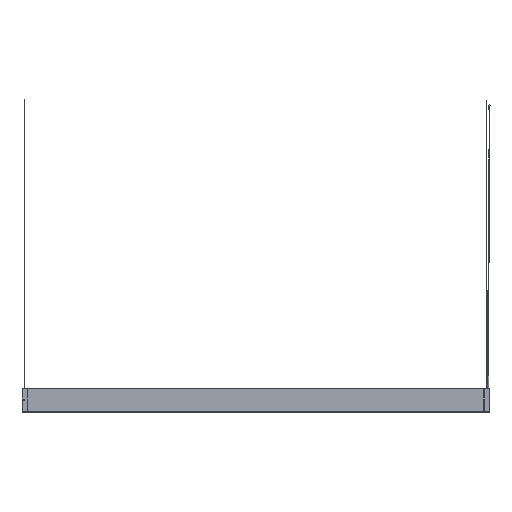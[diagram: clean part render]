
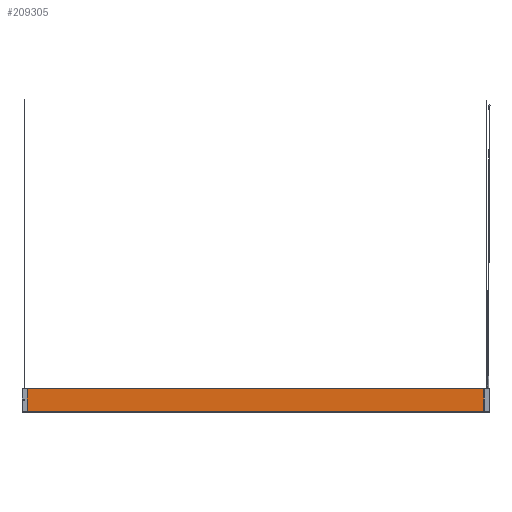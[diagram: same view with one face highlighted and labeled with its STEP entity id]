
A CAD part, top view. The second image highlights one B-rep face of the part: STEP entity #209305.
In plain terms, the highlighted planar face has unit normal (0, 0, 1) as drawn and (-1, 0, 0) by its records, which use the part's own axes.
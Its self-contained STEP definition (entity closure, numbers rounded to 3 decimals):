
#877 = ORIENTED_EDGE ( 'NONE', *, *, #166937, .T. ) ;
#2821 = VERTEX_POINT ( 'NONE', #88432 ) ;
#8650 = EDGE_CURVE ( 'NONE', #77932, #171551, #68294, .T. ) ;
#14858 = CARTESIAN_POINT ( 'NONE',  ( 0., 855., 43. ) ) ;
#19481 = LINE ( 'NONE', #193314, #65142 ) ;
#20387 = CARTESIAN_POINT ( 'NONE',  ( 0., -855., 43. ) ) ;
#21422 = PLANE ( 'NONE',  #87456 ) ;
#25175 = ORIENTED_EDGE ( 'NONE', *, *, #160282, .F. ) ;
#32137 = DIRECTION ( 'NONE',  ( 0., 1., 0. ) ) ;
#38675 = CARTESIAN_POINT ( 'NONE',  ( 0., 855., 45. ) ) ;
#40667 = VERTEX_POINT ( 'NONE', #20387 ) ;
#47726 = ORIENTED_EDGE ( 'NONE', *, *, #8650, .T. ) ;
#48026 = CARTESIAN_POINT ( 'NONE',  ( 0., -855., 45. ) ) ;
#55409 = EDGE_LOOP ( 'NONE', ( #129046, #877, #25175, #47726 ) ) ;
#55977 = DIRECTION ( 'NONE',  ( 1., 0., 0. ) ) ;
#65142 = VECTOR ( 'NONE', #191139, 1000. ) ;
#68294 = LINE ( 'NONE', #78435, #108717 ) ;
#77932 = VERTEX_POINT ( 'NONE', #120904 ) ;
#78435 = CARTESIAN_POINT ( 'NONE',  ( 0., 855., -43. ) ) ;
#80297 = VECTOR ( 'NONE', #168648, 1000. ) ;
#87456 = AXIS2_PLACEMENT_3D ( 'NONE', #38675, #55977, #176574 ) ;
#88432 = CARTESIAN_POINT ( 'NONE',  ( 0., 855., 43. ) ) ;
#97300 = DIRECTION ( 'NONE',  ( 0., -1., 0. ) ) ;
#108717 = VECTOR ( 'NONE', #97300, 1000. ) ;
#120884 = LINE ( 'NONE', #48026, #80297 ) ;
#120904 = CARTESIAN_POINT ( 'NONE',  ( 0., 855., -43. ) ) ;
#129046 = ORIENTED_EDGE ( 'NONE', *, *, #201794, .T. ) ;
#157101 = FACE_OUTER_BOUND ( 'NONE', #55409, .T. ) ;
#160282 = EDGE_CURVE ( 'NONE', #77932, #2821, #19481, .T. ) ;
#166937 = EDGE_CURVE ( 'NONE', #40667, #2821, #216885, .T. ) ;
#168648 = DIRECTION ( 'NONE',  ( 0., 0., 1. ) ) ;
#171320 = VECTOR ( 'NONE', #32137, 1000. ) ;
#171551 = VERTEX_POINT ( 'NONE', #175743 ) ;
#175743 = CARTESIAN_POINT ( 'NONE',  ( 0., -855., -43. ) ) ;
#176574 = DIRECTION ( 'NONE',  ( 0., 0., -1. ) ) ;
#191139 = DIRECTION ( 'NONE',  ( 0., 0., 1. ) ) ;
#193314 = CARTESIAN_POINT ( 'NONE',  ( 0., 855., 45. ) ) ;
#201794 = EDGE_CURVE ( 'NONE', #171551, #40667, #120884, .T. ) ;
#209305 = ADVANCED_FACE ( 'NONE', ( #157101 ), #21422, .F. ) ;
#216885 = LINE ( 'NONE', #14858, #171320 ) ;
